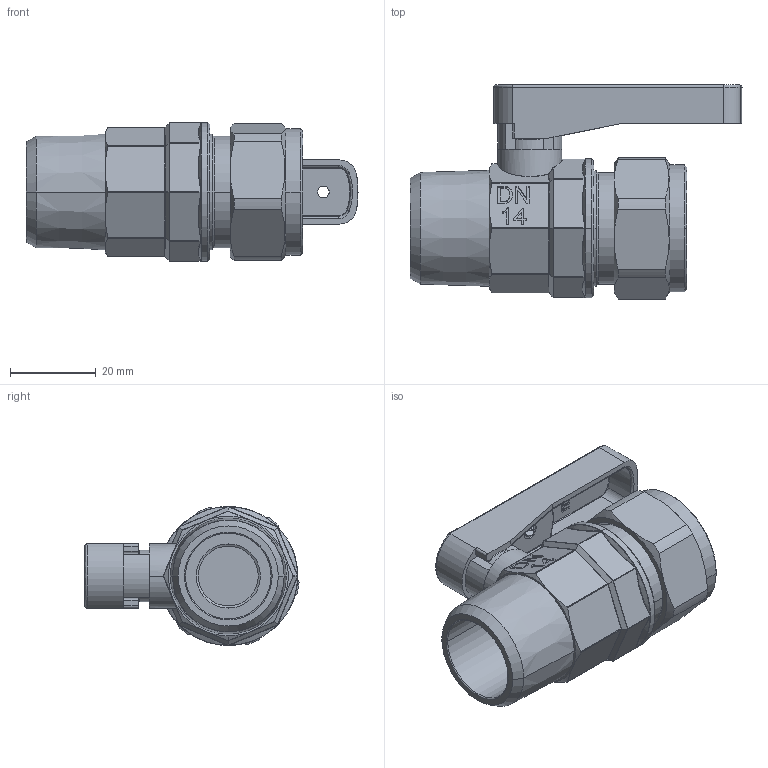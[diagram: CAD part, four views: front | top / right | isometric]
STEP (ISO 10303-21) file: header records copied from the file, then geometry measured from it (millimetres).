
FILE_DESCRIPTION (( 'STEP AP214' ), '1' );
FILE_NAME ('0635000109A.STEP', '2012-11-15T14:02:30', ( '' ), ( '' ), 'SwSTEP 2.0', 'SolidWorks 2012', '' );
FILE_SCHEMA (( 'AUTOMOTIVE_DESIGN' ));
Length unit declared in the file: millimetre
Products named in the file (1): 0635000109A
Bounding box: 77.6 x 50.03 x 32.5 mm (x, y, z)
Volume: 42631.9 mm3; surface area: 14973.9 mm2
Topology: 4 solids, 4 shells, 977 faces, 2522 edges, 1602 vertices
Faces by surface type: plane 446, bspline 282, cylinder 189, cone 60
Entity records: 46402 total; most frequent: CARTESIAN_POINT 18174, ORIENTED_EDGE 5004, DIRECTION 3603, EDGE_CURVE 2502, VERTEX_POINT 1602, VECTOR 1395, LINE 1395, AXIS2_PLACEMENT_3D 1104
